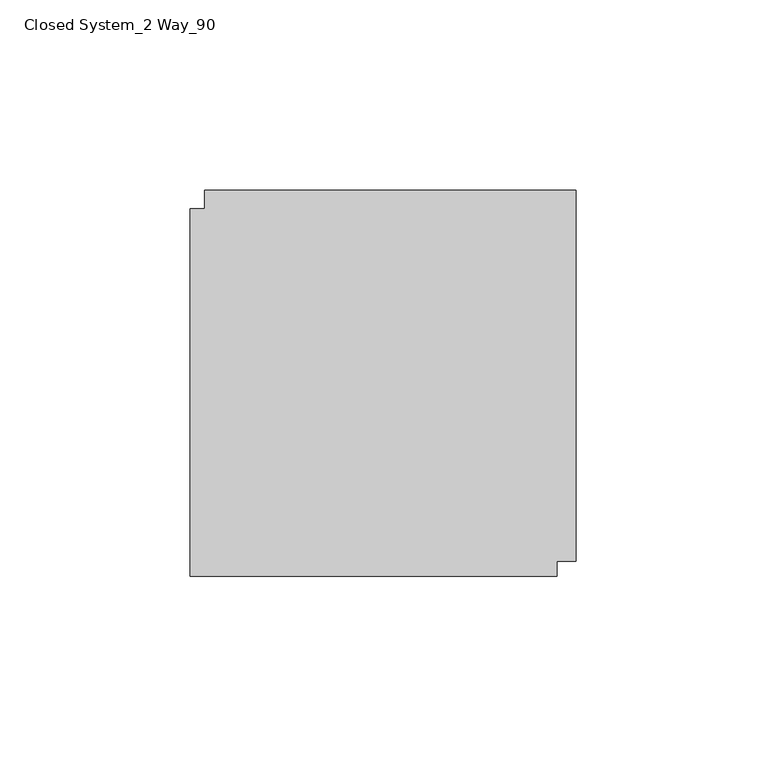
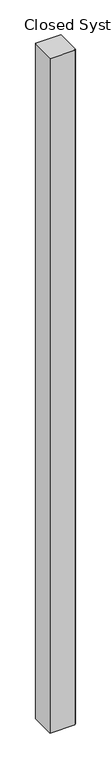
"""IFC4 building model written with IfcOpenShell, lengths in millimetres: furniture geometry, Haworth_Enclose-Accessories-Wall_Module-Intersection : Closed System_2 Way_90."""

from ifc_helpers import new_model, si_unit, origin, origin_with_axes, place, context, project, spatial, polyline, outline, extrude, source, transform, mapped, element, save


def closed_system_2_way_90_8ed795e9(model_context):
    return source(origin(), model_context, "Body", "SweptSolid", [
        extrude(outline(polyline([(29.9771531, 22.2450295), (33.9141531, 22.2450295), (33.9141531, 27.1980295), (131.5771531, 27.1980295), (131.5771531, -70.4649705), (126.6241531, -70.4649705), (126.6241531, -74.4019705), (29.9771531, -74.4019705), (29.9771531, 22.2450295)])), origin_with_axes(), (0.0, 0.0, 1.0), 2743.2),
    ])


if __name__ == "__main__":
    model = new_model("IFC4")
    model_context = context("Model", 3, world=origin())
    ifc_project = project(units=[si_unit("LENGTHUNIT", "METRE", prefix="MILLI")], contexts=[model_context])
    site = spatial("IfcSite", under=ifc_project)
    building = spatial("IfcBuilding", under=site)
    placement = place(None, origin())
    closed_system_2_way_90_shape = closed_system_2_way_90_8ed795e9(model_context)
    element("IfcFurniture", 1, ObjectType="Haworth_Enclose-Accessories-Wall_Module-Intersection : Closed System_2 Way_90", at=placement, inside=building, context=model_context, shape_type="MappedRepresentation", body=[
        mapped(closed_system_2_way_90_shape, transform((0.0, 0.0, 0.0), x_axis=(1.0, 0.0, 0.0), y_axis=(0.0, 1.0, 0.0), z_axis=(0.0, 0.0, 1.0))),
    ])
    save(model, "model.ifc")
